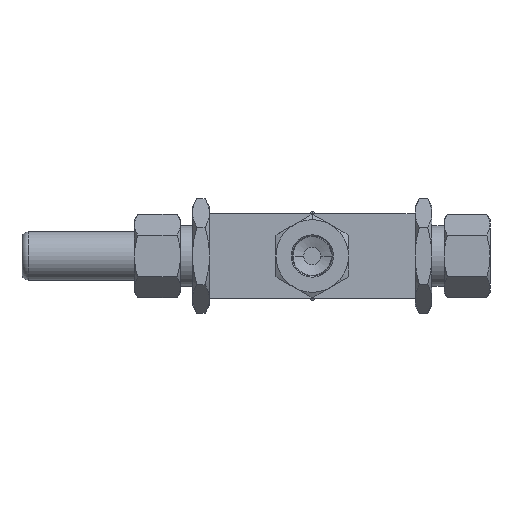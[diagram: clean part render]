
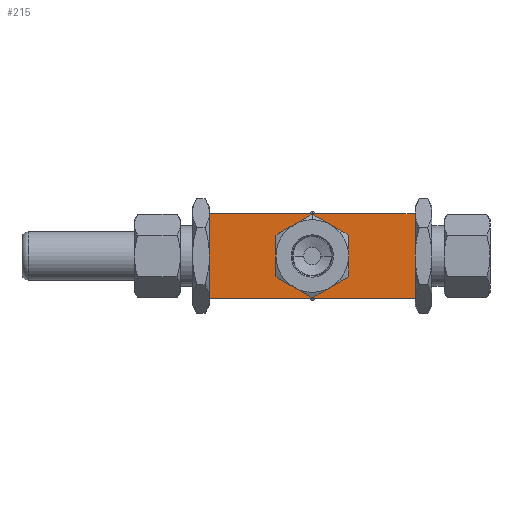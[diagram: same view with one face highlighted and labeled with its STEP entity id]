
A CAD part, front view. The second image highlights one B-rep face of the part: STEP entity #215.
In plain terms, the highlighted planar face has unit normal (0, -1, 0).
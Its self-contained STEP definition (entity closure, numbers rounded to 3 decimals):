
#7 = CARTESIAN_POINT ( 'NONE',  ( 42.5, -32.5, 17.5 ) ) ;
#32 = AXIS2_PLACEMENT_3D ( 'NONE', #1477, #2523, #950 ) ;
#89 = VERTEX_POINT ( 'NONE', #2308 ) ;
#120 = DIRECTION ( 'NONE',  ( 0., 0., -1. ) ) ;
#167 = AXIS2_PLACEMENT_3D ( 'NONE', #5486, #5349, #4871 ) ;
#196 = CARTESIAN_POINT ( 'NONE',  ( 15., -32.5, 0. ) ) ;
#215 = ADVANCED_FACE ( 'NONE', ( #4921, #2398 ), #881, .F. ) ;
#290 = DIRECTION ( 'NONE',  ( 0., 0., -1. ) ) ;
#349 = VERTEX_POINT ( 'NONE', #4481 ) ;
#383 = ORIENTED_EDGE ( 'NONE', *, *, #5081, .F. ) ;
#449 = VECTOR ( 'NONE', #4098, 1000. ) ;
#467 = EDGE_CURVE ( 'NONE', #525, #5365, #6601, .T. ) ;
#519 = LINE ( 'NONE', #7, #449 ) ;
#525 = VERTEX_POINT ( 'NONE', #5119 ) ;
#690 = DIRECTION ( 'NONE',  ( 0., -1., 0. ) ) ;
#703 = AXIS2_PLACEMENT_3D ( 'NONE', #5087, #5121, #1009 ) ;
#823 = ORIENTED_EDGE ( 'NONE', *, *, #2860, .T. ) ;
#836 = AXIS2_PLACEMENT_3D ( 'NONE', #3612, #4156, #2017 ) ;
#867 = VECTOR ( 'NONE', #4947, 1000. ) ;
#881 = PLANE ( 'NONE',  #2455 ) ;
#919 = CIRCLE ( 'NONE', #703, 15. ) ;
#932 = VECTOR ( 'NONE', #2883, 1000. ) ;
#934 = CARTESIAN_POINT ( 'NONE',  ( 7.5, -32.5, 12.99 ) ) ;
#950 = DIRECTION ( 'NONE',  ( 0., 0., -1. ) ) ;
#1009 = DIRECTION ( 'NONE',  ( 0., 0., -1. ) ) ;
#1087 = VERTEX_POINT ( 'NONE', #934 ) ;
#1249 = EDGE_CURVE ( 'NONE', #5365, #3094, #1849, .T. ) ;
#1477 = CARTESIAN_POINT ( 'NONE',  ( 0., -32.5, 0. ) ) ;
#1550 = CARTESIAN_POINT ( 'NONE',  ( -15., -32.5, 0. ) ) ;
#1626 = VECTOR ( 'NONE', #2055, 1000. ) ;
#1633 = ORIENTED_EDGE ( 'NONE', *, *, #6464, .F. ) ;
#1752 = CARTESIAN_POINT ( 'NONE',  ( 0., -32.5, 0. ) ) ;
#1849 = CIRCLE ( 'NONE', #32, 15. ) ;
#1897 = EDGE_CURVE ( 'NONE', #5552, #1087, #919, .T. ) ;
#2017 = DIRECTION ( 'NONE',  ( 0., 0., -1. ) ) ;
#2055 = DIRECTION ( 'NONE',  ( 0., 0., -1. ) ) ;
#2230 = DIRECTION ( 'NONE',  ( 0., 0., -1. ) ) ;
#2264 = EDGE_CURVE ( 'NONE', #4571, #3633, #3106, .T. ) ;
#2308 = CARTESIAN_POINT ( 'NONE',  ( 42.5, -32.5, 17.5 ) ) ;
#2398 = FACE_BOUND ( 'NONE', #4276, .T. ) ;
#2445 = CIRCLE ( 'NONE', #4693, 15. ) ;
#2455 = AXIS2_PLACEMENT_3D ( 'NONE', #4425, #3456, #4954 ) ;
#2494 = LINE ( 'NONE', #3946, #1626 ) ;
#2496 = AXIS2_PLACEMENT_3D ( 'NONE', #1752, #6290, #2230 ) ;
#2523 = DIRECTION ( 'NONE',  ( 0., -1., 0. ) ) ;
#2584 = AXIS2_PLACEMENT_3D ( 'NONE', #4240, #690, #120 ) ;
#2700 = ORIENTED_EDGE ( 'NONE', *, *, #1249, .F. ) ;
#2773 = ORIENTED_EDGE ( 'NONE', *, *, #6020, .F. ) ;
#2854 = CARTESIAN_POINT ( 'NONE',  ( 7.5, -32.5, -12.99 ) ) ;
#2860 = EDGE_CURVE ( 'NONE', #349, #2991, #2494, .T. ) ;
#2883 = DIRECTION ( 'NONE',  ( 1., 0., 0. ) ) ;
#2911 = LINE ( 'NONE', #5491, #932 ) ;
#2963 = ORIENTED_EDGE ( 'NONE', *, *, #1897, .F. ) ;
#2983 = LINE ( 'NONE', #5431, #867 ) ;
#2991 = VERTEX_POINT ( 'NONE', #6155 ) ;
#3039 = ORIENTED_EDGE ( 'NONE', *, *, #3939, .F. ) ;
#3094 = VERTEX_POINT ( 'NONE', #2854 ) ;
#3106 = CIRCLE ( 'NONE', #2584, 15. ) ;
#3154 = CIRCLE ( 'NONE', #167, 15. ) ;
#3456 = DIRECTION ( 'NONE',  ( 0., 1., 0. ) ) ;
#3612 = CARTESIAN_POINT ( 'NONE',  ( 0., -32.5, 0. ) ) ;
#3633 = VERTEX_POINT ( 'NONE', #1550 ) ;
#3687 = CARTESIAN_POINT ( 'NONE',  ( -7.5, -32.5, 12.99 ) ) ;
#3702 = CARTESIAN_POINT ( 'NONE',  ( 0., -32.5, -15. ) ) ;
#3705 = EDGE_CURVE ( 'NONE', #89, #3864, #519, .T. ) ;
#3751 = CARTESIAN_POINT ( 'NONE',  ( 42.5, -32.5, -17.5 ) ) ;
#3800 = ORIENTED_EDGE ( 'NONE', *, *, #4635, .T. ) ;
#3864 = VERTEX_POINT ( 'NONE', #3751 ) ;
#3939 = EDGE_CURVE ( 'NONE', #349, #89, #2983, .T. ) ;
#3946 = CARTESIAN_POINT ( 'NONE',  ( -42.5, -32.5, 17.5 ) ) ;
#4098 = DIRECTION ( 'NONE',  ( 0., 0., -1. ) ) ;
#4156 = DIRECTION ( 'NONE',  ( 0., -1., 0. ) ) ;
#4240 = CARTESIAN_POINT ( 'NONE',  ( 0., -32.5, 0. ) ) ;
#4276 = EDGE_LOOP ( 'NONE', ( #383, #2963, #2773, #2700, #6140, #1633, #4854 ) ) ;
#4403 = EDGE_LOOP ( 'NONE', ( #3800, #6170, #3039, #823 ) ) ;
#4425 = CARTESIAN_POINT ( 'NONE',  ( -42.5, -32.5, 17.5 ) ) ;
#4481 = CARTESIAN_POINT ( 'NONE',  ( -42.5, -32.5, 17.5 ) ) ;
#4571 = VERTEX_POINT ( 'NONE', #3687 ) ;
#4635 = EDGE_CURVE ( 'NONE', #2991, #3864, #2911, .T. ) ;
#4693 = AXIS2_PLACEMENT_3D ( 'NONE', #6370, #5448, #290 ) ;
#4854 = ORIENTED_EDGE ( 'NONE', *, *, #2264, .F. ) ;
#4871 = DIRECTION ( 'NONE',  ( 0., 0., -1. ) ) ;
#4921 = FACE_OUTER_BOUND ( 'NONE', #4403, .T. ) ;
#4947 = DIRECTION ( 'NONE',  ( 1., 0., 0. ) ) ;
#4954 = DIRECTION ( 'NONE',  ( 0., 0., 1. ) ) ;
#5081 = EDGE_CURVE ( 'NONE', #1087, #4571, #3154, .T. ) ;
#5087 = CARTESIAN_POINT ( 'NONE',  ( 0., -32.5, 0. ) ) ;
#5119 = CARTESIAN_POINT ( 'NONE',  ( -7.5, -32.5, -12.99 ) ) ;
#5121 = DIRECTION ( 'NONE',  ( 0., -1., 0. ) ) ;
#5349 = DIRECTION ( 'NONE',  ( 0., -1., 0. ) ) ;
#5365 = VERTEX_POINT ( 'NONE', #3702 ) ;
#5431 = CARTESIAN_POINT ( 'NONE',  ( -42.5, -32.5, 17.5 ) ) ;
#5448 = DIRECTION ( 'NONE',  ( 0., -1., 0. ) ) ;
#5486 = CARTESIAN_POINT ( 'NONE',  ( 0., -32.5, 0. ) ) ;
#5491 = CARTESIAN_POINT ( 'NONE',  ( -42.5, -32.5, -17.5 ) ) ;
#5552 = VERTEX_POINT ( 'NONE', #196 ) ;
#6020 = EDGE_CURVE ( 'NONE', #3094, #5552, #2445, .T. ) ;
#6140 = ORIENTED_EDGE ( 'NONE', *, *, #467, .F. ) ;
#6155 = CARTESIAN_POINT ( 'NONE',  ( -42.5, -32.5, -17.5 ) ) ;
#6170 = ORIENTED_EDGE ( 'NONE', *, *, #3705, .F. ) ;
#6290 = DIRECTION ( 'NONE',  ( 0., -1., 0. ) ) ;
#6370 = CARTESIAN_POINT ( 'NONE',  ( 0., -32.5, 0. ) ) ;
#6424 = CIRCLE ( 'NONE', #2496, 15. ) ;
#6464 = EDGE_CURVE ( 'NONE', #3633, #525, #6424, .T. ) ;
#6601 = CIRCLE ( 'NONE', #836, 15. ) ;
